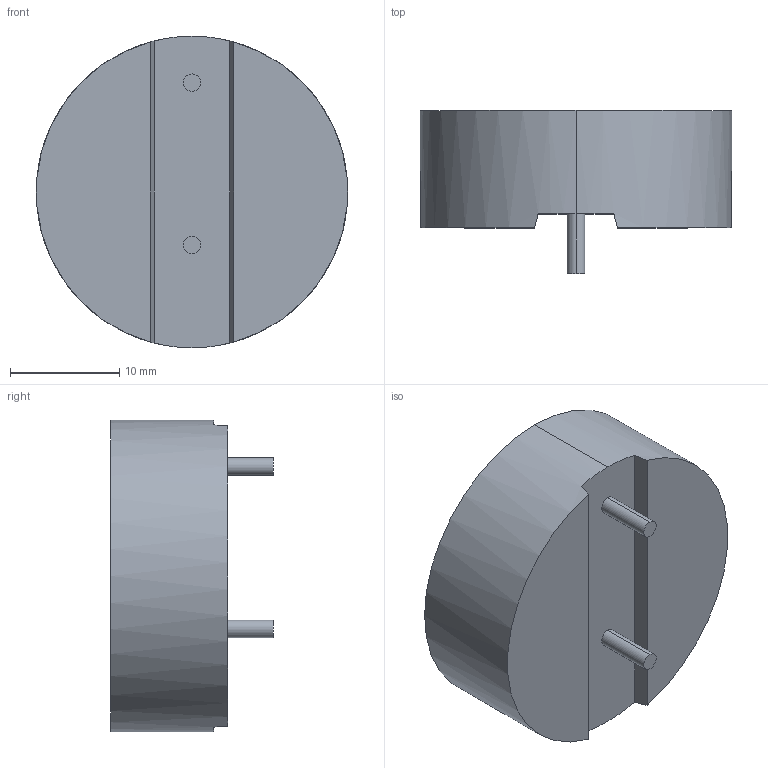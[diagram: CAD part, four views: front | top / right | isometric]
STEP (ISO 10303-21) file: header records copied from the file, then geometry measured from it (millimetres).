
FILE_DESCRIPTION (( 'STEP AP214' ), '1' );
FILE_NAME ('IHTH-1125KZ-5A 15uH.STEP', '2025-03-14T18:43:06', ( '' ), ( '' ), 'SwSTEP 2.0', 'SolidWorks 2024', '' );
FILE_SCHEMA (( 'AUTOMOTIVE_DESIGN' ));
Length unit declared in the file: inch
Products named in the file (1): IHTH-1125KZ-5A 15uH
Bounding box: 28.57 x 14.94 x 28.57 mm (x, y, z)
Volume: 6650.7 mm3; surface area: 2340.6 mm2
Topology: 1 solids, 1 shells, 186 faces, 486 edges, 324 vertices
Faces by surface type: plane 131, bspline 45, cylinder 10
Entity records: 8451 total; most frequent: CARTESIAN_POINT 4134, ORIENTED_EDGE 972, DIRECTION 700, EDGE_CURVE 486, LINE 368, VECTOR 368, VERTEX_POINT 324, EDGE_LOOP 208
